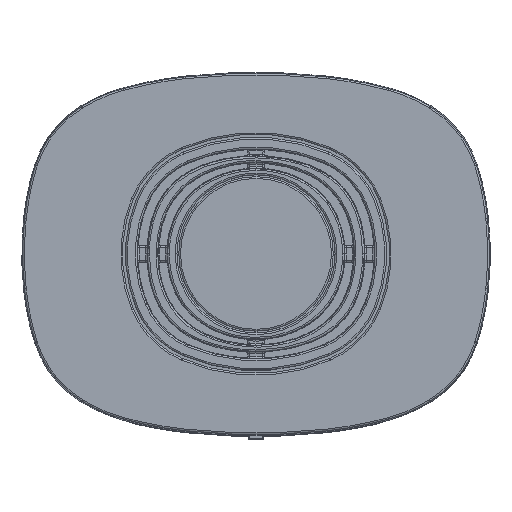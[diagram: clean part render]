
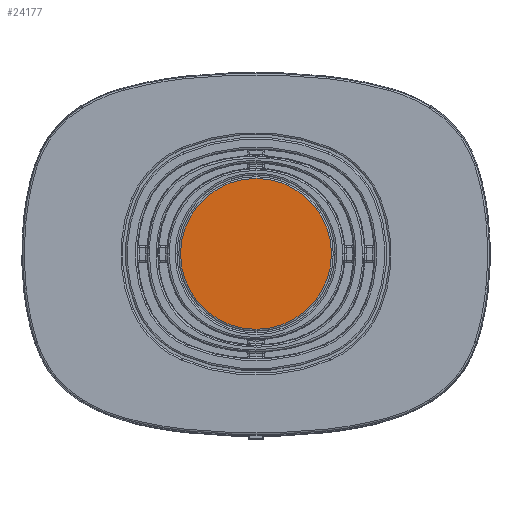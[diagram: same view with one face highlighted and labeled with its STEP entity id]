
A CAD part, top view. The second image highlights one B-rep face of the part: STEP entity #24177.
In plain terms, the highlighted planar face has unit normal (0, 0, 1).
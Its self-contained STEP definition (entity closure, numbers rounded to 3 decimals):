
#2379=CIRCLE('',#26491,86.2);
#6064=ORIENTED_EDGE('',*,*,#12579,.T.);
#12579=EDGE_CURVE('',#15958,#15958,#2379,.T.);
#15958=VERTEX_POINT('',#40613);
#20651=EDGE_LOOP('',(#6064));
#22228=FACE_BOUND('',#20651,.T.);
#23464=PLANE('',#26490);
#24177=ADVANCED_FACE('',(#22228),#23464,.T.);
#26490=AXIS2_PLACEMENT_3D('',#40611,#30428,#30429);
#26491=AXIS2_PLACEMENT_3D('',#40612,#30430,#30431);
#30428=DIRECTION('',(0.,0.,1.));
#30429=DIRECTION('',(1.,0.,0.));
#30430=DIRECTION('',(0.,0.,1.));
#30431=DIRECTION('',(1.,0.,0.));
#40611=CARTESIAN_POINT('',(-14.985,123.28,859.51));
#40612=CARTESIAN_POINT('',(0.,135.025,859.51));
#40613=CARTESIAN_POINT('',(86.2,135.025,859.51));
